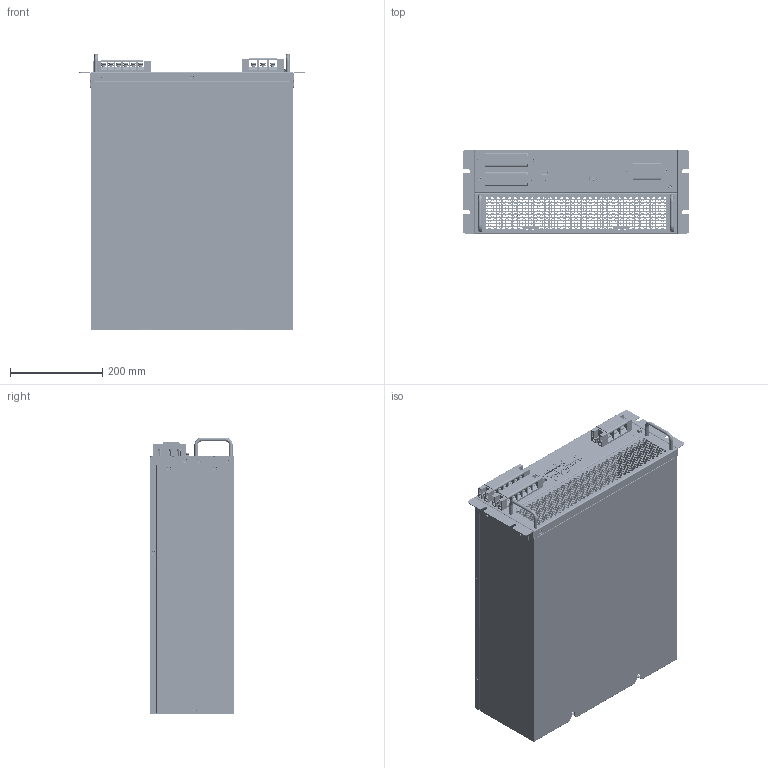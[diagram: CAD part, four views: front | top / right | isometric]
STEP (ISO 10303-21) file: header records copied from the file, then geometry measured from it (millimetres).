
FILE_DESCRIPTION (( 'STEP AP214' ), '1' );
FILE_NAME ('SP120HPV_»ú¿Ç-2024062202.STEP', '2024-06-22T11:13:00', ( '' ), ( '' ), 'SwSTEP 2.0', 'SolidWorks 2018', '' );
FILE_SCHEMA (( 'AUTOMOTIVE_DESIGN' ));
Length unit declared in the file: millimetre
Products named in the file (2): SP120HPV_儂褲-2024062202
Bounding box: 490 x 183 x 600 mm (x, y, z)
Surface area: 2016597.5 mm2 (no closed solid volume)
Topology: 0 solids, 241 shells, 17780 faces, 47992 edges, 31246 vertices
Faces by surface type: plane 14429, cylinder 1556, bspline 942, cone 778, torus 75
Entity records: 765498 total; most frequent: CARTESIAN_POINT 121095, ORIENTED_EDGE 95952, DIRECTION 83366, EDGE_CURVE 47980, VECTOR 41118, LINE 41118, VERTEX_POINT 31246, AXIS2_PLACEMENT_3D 21124
